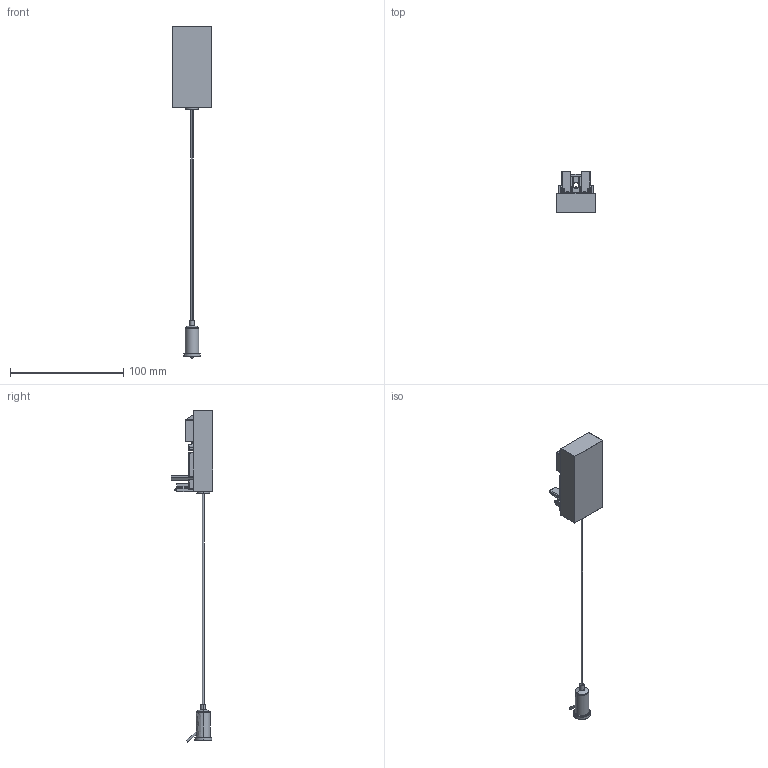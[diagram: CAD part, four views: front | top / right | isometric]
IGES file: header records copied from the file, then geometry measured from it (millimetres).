
Start section: SolidWorks IGES file using analytic representation for surfaces
Global section: file name: C:\Users\extension46\Desktop\3D-WEB\Invisible\Modular\END_CAP-steel-wire.IGS; native system: SolidWorks 2023; preprocessor: SolidWorks 2023; author: y.wang; date: 240627.085332; units: millimetre
Bounding box: 35 x 37 x 292.99 mm (x, y, z)
Surface area: 20840.3 mm2 (no closed solid volume)
Topology: 0 solids, 0 shells, 781 faces, 6100 edges, 6042 vertices
Faces by surface type: revolution 458, bspline 323
